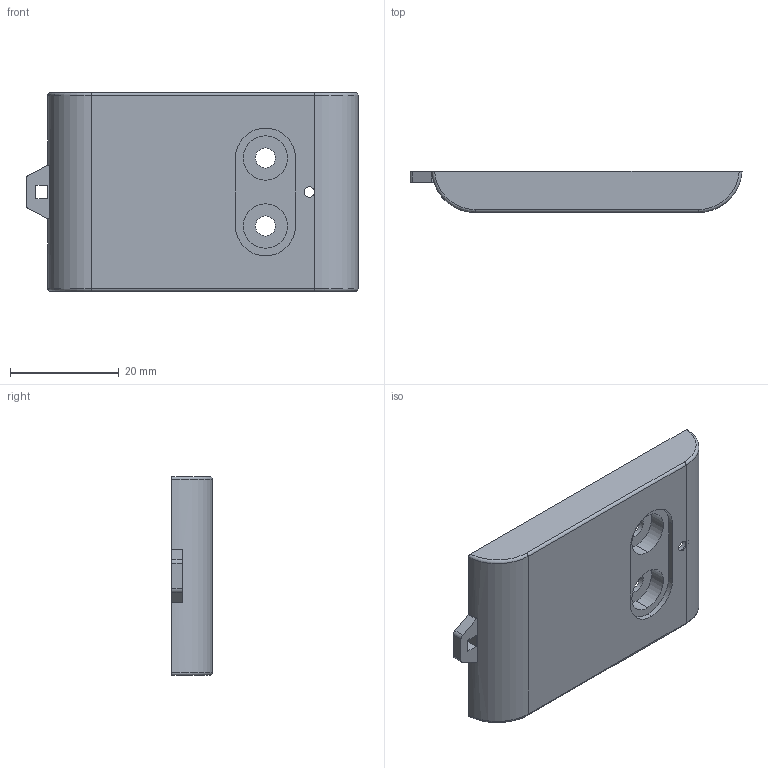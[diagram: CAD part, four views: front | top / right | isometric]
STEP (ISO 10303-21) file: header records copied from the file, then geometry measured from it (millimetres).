
FILE_DESCRIPTION (( 'STEP AP214' ), '1' );
FILE_NAME ('Tapa PP24.STEP', '2016-10-06T10:05:52', ( 'aaa' ), ( '' ), 'SwSTEP 2.0', 'SolidWorks 2013', '' );
FILE_SCHEMA (( 'AUTOMOTIVE_DESIGN' ));
Length unit declared in the file: millimetre
Products named in the file (1): Tapa PP24
Bounding box: 61 x 7.5 x 36.5 mm (x, y, z)
Volume: 4656.1 mm3; surface area: 6666 mm2
Topology: 1 solids, 1 shells, 85 faces, 219 edges, 142 vertices
Faces by surface type: plane 48, cylinder 33, torus 4
Entity records: 2665 total; most frequent: DIRECTION 473, CARTESIAN_POINT 467, ORIENTED_EDGE 438, EDGE_CURVE 219, AXIS2_PLACEMENT_3D 172, VERTEX_POINT 142, VECTOR 129, LINE 129
